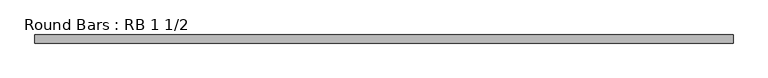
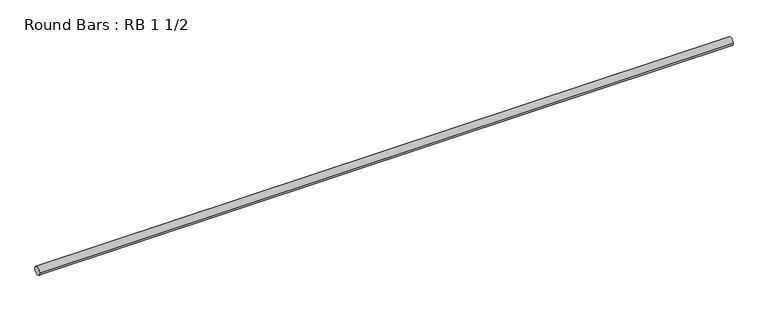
"""IFC4 building model written with IfcOpenShell, lengths in millimetres: member geometry, Round Bars : RB 1 1/2."""

import ifcopenshell
import ifcopenshell.guid

model = None  # the IFC model being written
_history = None  # IfcOwnerHistory: only IFC2X3 demands one
_inside = {}  # id of a spatial element -> (the spatial element, [elements in it])
_under = {}  # id of a project, library or spatial element -> (it, [spatial elements below it])
_declared = {}  # id of a project -> (the project, [libraries it declares])
_typed = {}  # id of a type object -> (the type object, [elements of that type])
_made_of = {}  # id of a material, layer set ... -> (it, [elements and type objects made of it])


def new_model(schema):
    """Start an empty IFC model of exactly this schema.

    Asked for "IFC4X3", IfcOpenShell would pick the latest addendum, in which some entities
    have other attributes; the version numbers below select the first issue.
    IFC2X3 requires an IfcOwnerHistory on every rooted entity: one is made here for all.
    """
    global model, _history
    if schema == "IFC4X3":
        model = ifcopenshell.file(schema_version=(4, 3, 0, 0))
    else:
        model = ifcopenshell.file(schema=schema)
    _inside.clear()
    _under.clear()
    _declared.clear()
    _typed.clear()
    _made_of.clear()
    _history = None
    if model.schema == "IFC2X3":
        org = make("IfcOrganization", Name="unknown")
        user = make(
            "IfcPersonAndOrganization",
            ThePerson=make("IfcPerson", FamilyName="unknown"),
            TheOrganization=org,
        )
        app = make(
            "IfcApplication",
            ApplicationDeveloper=org,
            Version="unknown",
            ApplicationFullName="unknown",
            ApplicationIdentifier="unknown",
        )
        _history = make(
            "IfcOwnerHistory",
            OwningUser=user,
            OwningApplication=app,
            ChangeAction="ADDED",
            CreationDate=0,
        )
    return model


def make(cls, **values):
    """One entity of the class cls with the attributes given. An attribute that is None is left unset."""
    return model.create_entity(
        cls, **{name: value for name, value in values.items() if value is not None}
    )


def rooted(cls, **values):
    """An entity with a GlobalId (a new one), such as an element, a storey or a relation."""
    return make(cls, GlobalId=ifcopenshell.guid.new(), OwnerHistory=_history, **values)


def si_unit(unit_type, name, prefix=None):
    """IfcSIUnit, for example si_unit("LENGTHUNIT", "METRE", prefix="MILLI")."""
    return make("IfcSIUnit", UnitType=unit_type, Prefix=prefix, Name=name)


def assignment(units):
    """IfcUnitAssignment: the units of a project."""
    return None if units is None else make("IfcUnitAssignment", Units=units)


def point(xyz):
    """IfcCartesianPoint."""
    return None if xyz is None else make("IfcCartesianPoint", Coordinates=xyz)


def direction(xyz):
    """IfcDirection."""
    return None if xyz is None else make("IfcDirection", DirectionRatios=xyz)


def frame(location, z_axis=None, x_axis=None):
    """IfcAxis2Placement3D, a coordinate frame: its origin and axes. An axis left out is left unset."""
    return make(
        "IfcAxis2Placement3D",
        Location=point(location),
        Axis=direction(z_axis),
        RefDirection=direction(x_axis),
    )


def frame_2d(location, x_axis=None):
    """IfcAxis2Placement2D, a coordinate frame in the plane: its origin and x axis."""
    return make(
        "IfcAxis2Placement2D", Location=point(location), RefDirection=direction(x_axis)
    )


def origin():
    """The frame at (0, 0, 0) with its axes left unset."""
    return frame((0.0, 0.0, 0.0))


def origin_2d():
    """The frame at (0, 0) in the plane with its x axis left unset."""
    return frame_2d((0.0, 0.0))


def place(relative_to, where):
    """IfcLocalPlacement: puts the frame where relative to a parent placement (None: the world)."""
    return make(
        "IfcLocalPlacement", PlacementRelTo=relative_to, RelativePlacement=where
    )


def context(
    kind, dimensions, precision=None, world=None, true_north=None, identifier=None
):
    """IfcGeometricRepresentationContext, for example the 3D "Model" context."""
    return make(
        "IfcGeometricRepresentationContext",
        ContextIdentifier=identifier,
        ContextType=kind,
        CoordinateSpaceDimension=dimensions,
        Precision=precision,
        WorldCoordinateSystem=world,
        TrueNorth=true_north,
    )


def project(units=None, contexts=None):
    """IfcProject with its units and contexts."""
    return rooted(
        "IfcProject",
        Name="project",
        RepresentationContexts=contexts,
        UnitsInContext=assignment(units),
    )


def spatial(cls, under=None, at=None, **own):
    """A site, building, storey or space (cls), placed at a placement, below another one or the project."""
    s = rooted(cls, ObjectPlacement=at, **own)
    if under is not None:
        _under.setdefault(under.id(), (under, []))[1].append(s)
    return s


def circle_curve(where, radius):
    """IfcCircle in the frame where."""
    return make("IfcCircle", Position=where, Radius=radius)


def trimmed(basis, trim1, trim2, sense, master):
    """IfcTrimmedCurve: the piece of a basis curve between two trims."""
    return make(
        "IfcTrimmedCurve",
        BasisCurve=basis,
        Trim1=trim1,
        Trim2=trim2,
        SenseAgreement=sense,
        MasterRepresentation=master,
    )


def segment(curve, same_sense, transition):
    """IfcCompositeCurveSegment."""
    return make(
        "IfcCompositeCurveSegment",
        Transition=transition,
        SameSense=same_sense,
        ParentCurve=curve,
    )


def composite_curve(segments, self_intersect=None):
    """IfcCompositeCurve: segments joined end to end."""
    return make("IfcCompositeCurve", Segments=segments, SelfIntersect=self_intersect)


def outline(outer, holes=None, kind="AREA"):
    """IfcArbitraryClosedProfileDef: a profile drawn as a closed curve; with holes, ...WithVoids."""
    if holes is None:
        return make("IfcArbitraryClosedProfileDef", ProfileType=kind, OuterCurve=outer)
    return make(
        "IfcArbitraryProfileDefWithVoids",
        ProfileType=kind,
        OuterCurve=outer,
        InnerCurves=holes,
    )


def extrude(swept, where, along, depth):
    """IfcExtrudedAreaSolid: the profile swept, set in the frame where, extruded along a direction by depth."""
    return make(
        "IfcExtrudedAreaSolid",
        SweptArea=swept,
        Position=where,
        ExtrudedDirection=direction(along),
        Depth=depth,
    )


def shape(context_of_items, identifier, shape_type, items):
    """IfcShapeRepresentation: the items that make up one representation, for example the "Body"."""
    return make(
        "IfcShapeRepresentation",
        ContextOfItems=context_of_items,
        RepresentationIdentifier=identifier,
        RepresentationType=shape_type,
        Items=items,
    )


def source(mapping_origin, context_of_items, identifier, shape_type, items):
    """IfcRepresentationMap: a shape defined once, which mapped items show again and again."""
    return make(
        "IfcRepresentationMap",
        MappingOrigin=mapping_origin,
        MappedRepresentation=shape(context_of_items, identifier, shape_type, items),
    )


def transform(
    local_origin,
    x_axis=None,
    y_axis=None,
    z_axis=None,
    scale=None,
    scale2=None,
    scale3=None,
    uniform=True,
):
    """IfcCartesianTransformationOperator3D, or its non-uniform kind. x_axis, y_axis, z_axis: its Axis1, 2, 3."""
    if uniform:
        return make(
            "IfcCartesianTransformationOperator3D",
            Axis1=direction(x_axis),
            Axis2=direction(y_axis),
            LocalOrigin=point(local_origin),
            Scale=scale,
            Axis3=direction(z_axis),
        )
    return make(
        "IfcCartesianTransformationOperator3DnonUniform",
        Axis1=direction(x_axis),
        Axis2=direction(y_axis),
        LocalOrigin=point(local_origin),
        Scale=scale,
        Axis3=direction(z_axis),
        Scale2=scale2,
        Scale3=scale3,
    )


def mapped(mapping_source, mapping_target):
    """IfcMappedItem: shows the shape of a source again, moved by a transform."""
    return make(
        "IfcMappedItem", MappingSource=mapping_source, MappingTarget=mapping_target
    )


def made_of(thing, what):
    """Note that an element or type object is made of a material, layer set ...; save() writes the relation."""
    if what is not None:
        _made_of.setdefault(what.id(), (what, []))[1].append(thing)
    return thing


def element(
    cls,
    number,
    at=None,
    inside=None,
    cuts=None,
    type_object=None,
    material=None,
    context=None,
    identifier="Body",
    shape_type=None,
    held_by="IfcProductDefinitionShape",
    body=None,
    shapes=None,
    **own,
):
    """One element of the class cls, such as IfcWall. Its Tag is "e" and its number.

    at: its placement. inside: the storey or other place that contains it. cuts: it is an
    opening in that element (IfcRelVoidsElement). A single representation is given by context,
    identifier, shape_type and body (its items); several are given by shapes. held_by: the class
    of the entity that holds the representations. save() writes the other relations.
    """
    e = rooted(cls, Tag="e%d" % number, ObjectPlacement=at, **own)
    if body is not None:
        shapes = [shape(context, identifier, shape_type, body)]
    if shapes is not None:
        e.Representation = make(held_by, Representations=shapes)
    if inside is not None:
        _inside.setdefault(inside.id(), (inside, []))[1].append(e)
    if cuts is not None:
        rooted(
            "IfcRelVoidsElement", RelatingBuildingElement=cuts, RelatedOpeningElement=e
        )
    if type_object is not None:
        _typed.setdefault(type_object.id(), (type_object, []))[1].append(e)
    return made_of(e, material)


def aggregate(whole, parts):
    """IfcRelAggregates: a whole, such as a stair, and the parts it consists of."""
    return rooted("IfcRelAggregates", RelatingObject=whole, RelatedObjects=parts)


def save(model, path):
    """Write the relations noted so far, then the file.

    IfcRelAggregates (storeys below a building ...), IfcRelContainedInSpatialStructure (elements
    in a storey), IfcRelDefinesByType, IfcRelAssociatesMaterial and IfcRelDeclares: one each for
    every whole, place, type object, material and project.
    """
    for whole, parts in _under.values():
        aggregate(whole, parts)
    for where, things in _inside.values():
        rooted(
            "IfcRelContainedInSpatialStructure",
            RelatedElements=things,
            RelatingStructure=where,
        )
    for kind, things in _typed.values():
        rooted("IfcRelDefinesByType", RelatedObjects=things, RelatingType=kind)
    for what, things in _made_of.values():
        rooted("IfcRelAssociatesMaterial", RelatedObjects=things, RelatingMaterial=what)
    for by, libraries in _declared.values():
        rooted("IfcRelDeclares", RelatingContext=by, RelatedDefinitions=libraries)
    model.write(path)


def round_bars_rb_1_1_2_1d450b9f(model_context):
    return source(origin(), model_context, "Body", "SweptSolid", [
        extrude(outline(composite_curve([segment(trimmed(circle_curve(origin_2d(), 19.05), [point((19.05, 0.0))], [point((-19.05, 0.0))], False, "CARTESIAN"), True, "CONTINUOUS"), segment(trimmed(circle_curve(origin_2d(), 19.05), [point((-19.05, 0.0))], [point((19.05, 0.0))], False, "CARTESIAN"), True, "CONTINUOUS")], self_intersect=False)), frame((-1670.3783402, 0.0, 0.0), z_axis=(1.0, 0.0, 0.0), x_axis=(0.0, 1.0, 0.0)), (0.0, 0.0, 1.0), 3276.2159292),
    ])


if __name__ == "__main__":
    model = new_model("IFC4")
    model_context = context("Model", 3, world=origin())
    ifc_project = project(units=[si_unit("LENGTHUNIT", "METRE", prefix="MILLI")], contexts=[model_context])
    site = spatial("IfcSite", under=ifc_project)
    building = spatial("IfcBuilding", under=site)
    placement = place(None, origin())
    round_bars_rb_1_1_2_shape = round_bars_rb_1_1_2_1d450b9f(model_context)
    element("IfcMember", 1, ObjectType="Round Bars : RB 1 1/2", at=placement, inside=building, context=model_context, shape_type="MappedRepresentation", body=[
        mapped(round_bars_rb_1_1_2_shape, transform((0.0, 0.0, 0.0), x_axis=(1.0, 0.0, 0.0), y_axis=(0.0, 1.0, 0.0), z_axis=(0.0, 0.0, 1.0))),
    ])
    save(model, "model.ifc")
